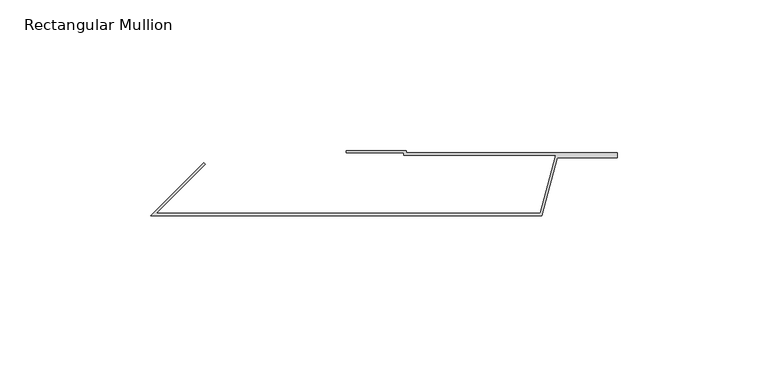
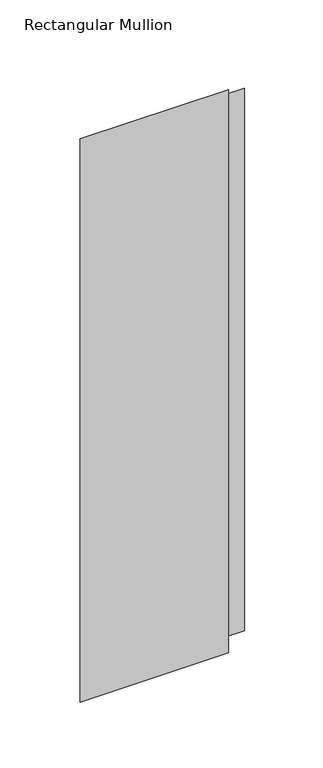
"""IFC4 building model written with IfcOpenShell, lengths in millimetres: member geometry, Rectangular Mullion : TE-V-01_02_Joint flashing."""

from ifc_helpers import new_model, si_unit, origin, place, context, project, spatial, faceted_brep, source, transform, mapped, element, save


def rectangular_mullion_4b7977a3(model_context):
    return source(origin(), model_context, "Body", "Brep", [
        faceted_brep([(0.0, 0.0, -499.9999997), (0.0, -0.8, -499.9999997), (70.1186468, -0.8, -499.9999997), (70.1186468, -2.4, -499.9999997), (50.1763809, -2.4, -499.9999997), (45.0, -21.7185165, -499.9999997), (-85.0, -21.7185165, -499.9999997), (-67.3223305, -4.040847, -499.9999997), (-66.756645, -4.6065324, -499.9999997), (-83.0686292, -20.9185165, -499.9999997), (44.3861384, -20.9185165, -499.9999997), (49.5625193, -1.6, -499.9999997), (-0.8, -1.6, -499.9999997), (-0.8, -0.8, -499.9999997), (-20.0, -0.8, -499.9999997), (-20.0, 0.0, -499.9999997), (-20.0, 0.0, 0.0), (0.0, 0.0, 0.0), (-20.0, -0.8, 0.8), (-0.8, -0.8, 0.8), (-0.8, -1.6, 1.6), (49.5625193, -1.6, 1.6), (44.3861384, -20.9185165, 20.9185165), (-83.0686292, -20.9185165, 20.9185165), (-66.756645, -4.6065324, 4.6065324), (-67.3223305, -4.040847, 4.040847), (-85.0, -21.7185165, 21.7185165), (45.0, -21.7185165, 21.7185165), (50.1763809, -2.4, 2.4), (70.1186468, -2.4, 2.4), (70.1186468, -0.8, 0.8), (0.0, -0.8, 0.8)], [[[0, 1, 2, 3, 4, 5, 6, 7, 8, 9, 10, 11, 12, 13, 14, 15]], [[16, 17, 0, 15]], [[18, 16, 15, 14]], [[19, 18, 14, 13]], [[20, 19, 13, 12]], [[21, 20, 12, 11]], [[22, 21, 11, 10]], [[23, 22, 10, 9]], [[24, 23, 9, 8]], [[25, 24, 8, 7]], [[26, 25, 7, 6]], [[27, 26, 6, 5]], [[28, 27, 5, 4]], [[29, 28, 4, 3]], [[30, 29, 3, 2]], [[31, 30, 2, 1]], [[17, 31, 1, 0]], [[17, 16, 18, 19, 20, 21, 22, 23, 24, 25, 26, 27, 28, 29, 30, 31]]]),
    ])


if __name__ == "__main__":
    model = new_model("IFC4")
    model_context = context("Model", 3, world=origin())
    ifc_project = project(units=[si_unit("LENGTHUNIT", "METRE", prefix="MILLI")], contexts=[model_context])
    site = spatial("IfcSite", under=ifc_project)
    building = spatial("IfcBuilding", under=site)
    placement = place(None, origin())
    rectangular_mullion_shape = rectangular_mullion_4b7977a3(model_context)
    element("IfcMember", 1, ObjectType="Rectangular Mullion : TE-V-01_02_Joint flashing", at=placement, inside=building, context=model_context, shape_type="MappedRepresentation", body=[
        mapped(rectangular_mullion_shape, transform((0.0, 0.0, 0.0), x_axis=(1.0, 0.0, 0.0), y_axis=(0.0, 1.0, 0.0), z_axis=(0.0, 0.0, 1.0))),
    ])
    save(model, "model.ifc")
